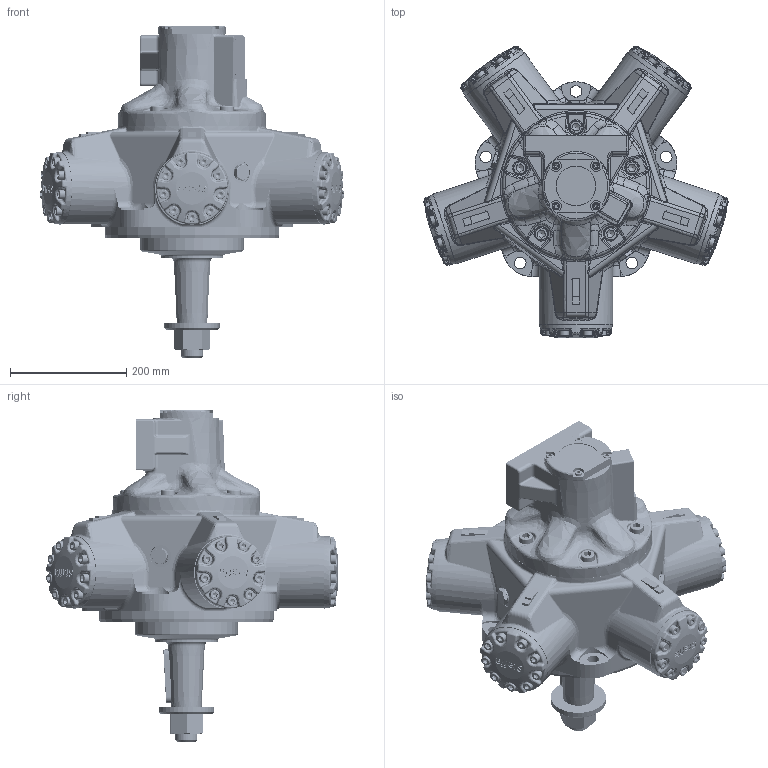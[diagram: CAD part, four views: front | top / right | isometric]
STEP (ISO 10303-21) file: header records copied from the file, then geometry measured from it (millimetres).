
FILE_DESCRIPTION(/* description */ (''),/* implementation_level */ '2;1');
FILE_NAME(/* name */ 'HMB100_T_SFM3_70.stp',/* time_stamp */ '2025-12-01T14:27:03Z',/* author */ ('ccallanga'),/* organization */ (''),/* preprocessor_version */ 'ST-DEVELOPER v20',/* originating_system */ 'Autodesk Inventor 2024',/* authorisation */ '');
FILE_SCHEMA (('AUTOMOTIVE_DESIGN { 1 0 10303 214 3 1 1 }'));
Products named in the file (1): HMB100 Web Assembly_Simplify_1
Bounding box: 524.44 x 502.42 x 572.06 mm (x, y, z)
Volume: 26282239.5 mm3; surface area: 845741.2 mm2
Topology: 1 solids, 1 shells, 5218 faces, 12500 edges, 7287 vertices
Faces by surface type: bspline 1879, plane 1378, cylinder 1098, torus 542, sphere 185, cone 136
Full cylindrical faces by diameter (mm): 2.2 x4, 8.376 x2, 9.4 x1, 10.25 x8, 11.913 x4, 12 x1, 12.7 x4, 16 x55, 16.5 x45, 16.51 x1, 17 x10, 20 x5, 23.825 x5, 25.4 x5, 26.92 x2, 32 x2, 38.1 x4, 50.8 x1, 68.58 x1, 69.825 x1, 73.914 x1, 88.901 x1, 95.25 x1, 107.95 x1, 177.8 x1, 254 x1, 301.535 x1
Entity records: 216910 total; most frequent: CARTESIAN_POINT 104522, ORIENTED_EDGE 24528, DIRECTION 18604, EDGE_CURVE 12264, AXIS2_PLACEMENT_3D 7307, VERTEX_POINT 7287, EDGE_LOOP 5479, STYLED_ITEM 5219
